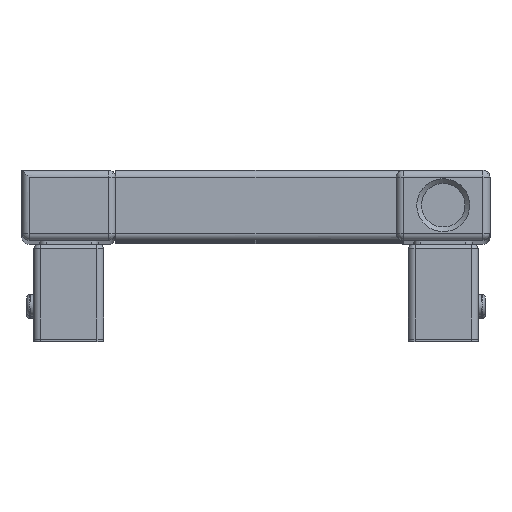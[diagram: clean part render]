
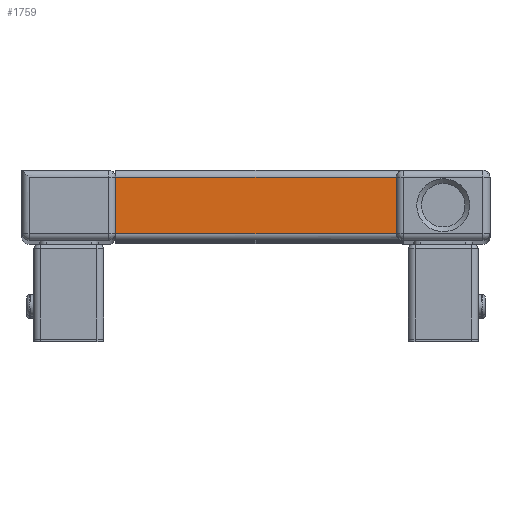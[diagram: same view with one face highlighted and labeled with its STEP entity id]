
A CAD part, top view. The second image highlights one B-rep face of the part: STEP entity #1759.
In plain terms, the highlighted planar face has unit normal (0, 0, 1).
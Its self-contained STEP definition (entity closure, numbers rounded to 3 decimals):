
#1692=CARTESIAN_POINT('',(60.,-12.,900.));
#1693=VERTEX_POINT('',#1692);
#1703=CARTESIAN_POINT('',(-60.0,-12.,900.));
#1704=VERTEX_POINT('',#1703);
#1705=CARTESIAN_POINT('',(-60.0,-12.,900.));
#1706=DIRECTION('',(1.0,0.0,0.0));
#1707=VECTOR('',#1706,120.0);
#1708=LINE('',#1705,#1707);
#1709=EDGE_CURVE('',#1704,#1693,#1708,.T.);
#1729=CARTESIAN_POINT('',(-60.0,-12.,900.));
#1730=DIRECTION('',(0.0,0.0,1.0));
#1731=DIRECTION('',(1.0,0.0,0.0));
#1732=AXIS2_PLACEMENT_3D('',#1729,#1730,#1731);
#1733=PLANE('',#1732);
#1734=CARTESIAN_POINT('',(60.0,12.,900.));
#1735=VERTEX_POINT('',#1734);
#1736=CARTESIAN_POINT('',(60.0,12.,900.));
#1737=DIRECTION('',(0.0,-1.0,0.0));
#1738=VECTOR('',#1737,24.);
#1739=LINE('',#1736,#1738);
#1740=EDGE_CURVE('',#1735,#1693,#1739,.T.);
#1741=ORIENTED_EDGE('',*,*,#1740,.F.);
#1742=CARTESIAN_POINT('',(-60.0,12.,900.));
#1743=VERTEX_POINT('',#1742);
#1744=CARTESIAN_POINT('',(-60.0,12.,900.));
#1745=DIRECTION('',(1.0,0.0,0.0));
#1746=VECTOR('',#1745,120.0);
#1747=LINE('',#1744,#1746);
#1748=EDGE_CURVE('',#1743,#1735,#1747,.T.);
#1749=ORIENTED_EDGE('',*,*,#1748,.F.);
#1750=CARTESIAN_POINT('',(-60.0,-12.,900.));
#1751=DIRECTION('',(0.0,1.0,0.0));
#1752=VECTOR('',#1751,24.);
#1753=LINE('',#1750,#1752);
#1754=EDGE_CURVE('',#1704,#1743,#1753,.T.);
#1755=ORIENTED_EDGE('',*,*,#1754,.F.);
#1756=ORIENTED_EDGE('',*,*,#1709,.T.);
#1757=EDGE_LOOP('',(#1741,#1749,#1755,#1756));
#1758=FACE_OUTER_BOUND('',#1757,.T.);
#1759=ADVANCED_FACE('',(#1758),#1733,.T.);
